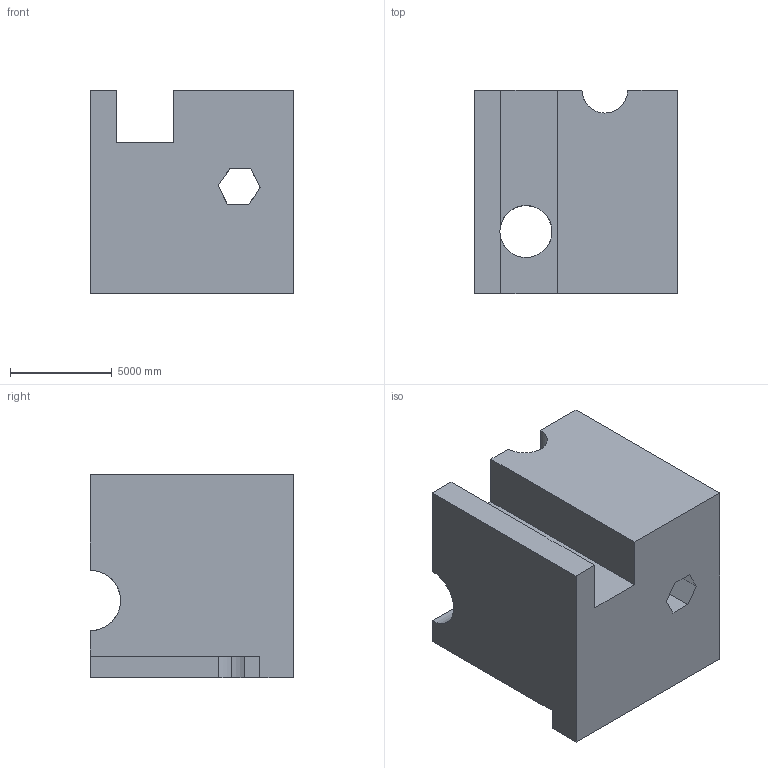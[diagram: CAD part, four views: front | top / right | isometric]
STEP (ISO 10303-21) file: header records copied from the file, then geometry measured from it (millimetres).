
FILE_DESCRIPTION (( 'STEP AP203' ), '1' );
FILE_NAME ('1541.STEP', '2022-08-18T15:11:10', ( 'user' ), ( '' ), 'SwSTEP 2.0', 'SolidWorks 2021', '' );
FILE_SCHEMA (( 'CONFIG_CONTROL_DESIGN' ));
Length unit declared in the file: centimetre
Products named in the file (1): 1541
Bounding box: 10000 x 10000 x 10000 mm (x, y, z)
Volume: 803607687858.5 mm3; surface area: 745644397.5 mm2
Topology: 1 solids, 1 shells, 29 faces, 90 edges, 60 vertices
Faces by surface type: plane 24, cylinder 5
Entity records: 1334 total; most frequent: CARTESIAN_POINT 451, ORIENTED_EDGE 180, DIRECTION 156, EDGE_CURVE 90, LINE 70, VECTOR 70, VERTEX_POINT 60, AXIS2_PLACEMENT_3D 43
